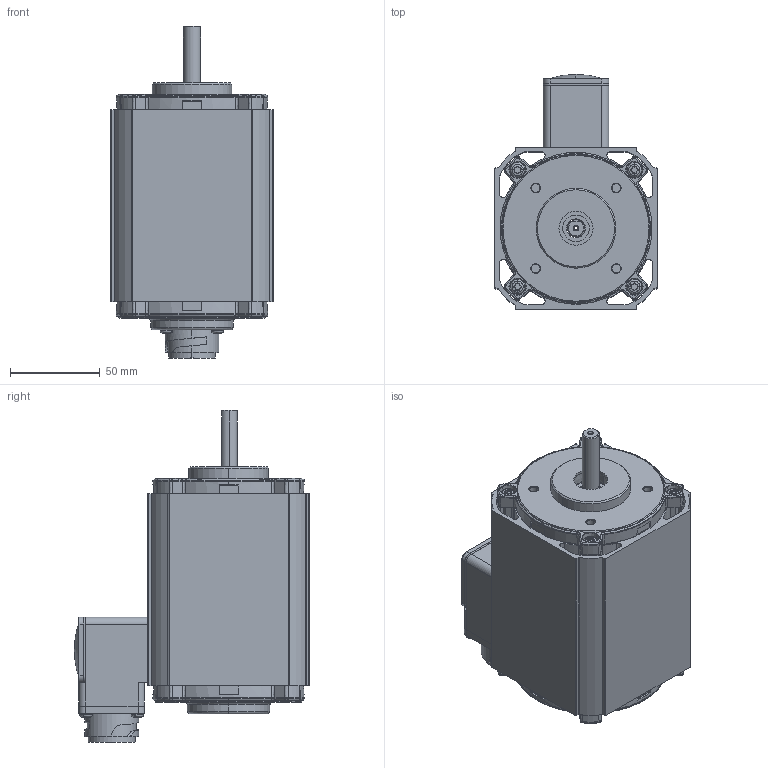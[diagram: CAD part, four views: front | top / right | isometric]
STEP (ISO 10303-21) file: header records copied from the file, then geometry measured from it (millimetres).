
FILE_DESCRIPTION (( 'STEP AP203' ), '1' );
FILE_NAME ('BL8020.STEP', '2006-08-17T18:19:41', ( 'Eng-KVV2' ), ( 'Groschopp' ), 'SwSTEP 2.0', 'SolidWorks 2006104', '' );
FILE_SCHEMA (( 'CONFIG_CONTROL_DESIGN' ));
Products named in the file (1): BL8020
Bounding box: 90.25 x 131.01 x 184.93 mm (x, y, z)
Surface area: 118400.2 mm2 (no closed solid volume)
Topology: 0 solids, 41 shells, 952 faces, 2918 edges, 1954 vertices
Faces by surface type: plane 372, cylinder 288, cone 97, bspline 96, torus 81, sphere 18
Entity records: 52241 total; most frequent: CARTESIAN_POINT 26711, DIRECTION 5307, ORIENTED_EDGE 5131, EDGE_CURVE 2918, AXIS2_PLACEMENT_3D 2060, VERTEX_POINT 1954, CIRCLE 1203, VECTOR 1187
